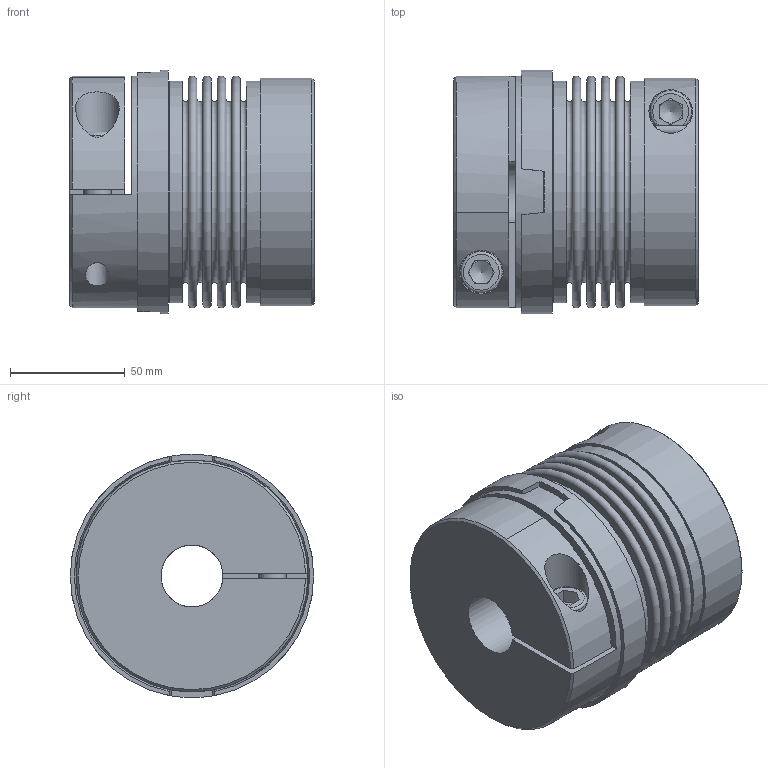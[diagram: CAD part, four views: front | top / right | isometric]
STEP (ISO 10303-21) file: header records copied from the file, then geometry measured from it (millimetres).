
FILE_DESCRIPTION( ( 'Unknown' ), '1' );
FILE_NAME( 'F:/JAKOB-STEP+IGES-Dateien/STEP-Dateien/KPP/KPP 270.stp', 'Unknown', ( 'Unknown' ), ( 'Unknown' ), 'PSStep 10.1', 'Unknown', ' ' );
FILE_SCHEMA( ( 'AUTOMOTIVE_DESIGN { 1 0 10303 214 1 1 1 1 }' ) );
Length unit declared in the file: millimetre
Products named in the file (1): KT102205
Bounding box: 106.5 x 106 x 106 mm (x, y, z)
Volume: 540179.1 mm3; surface area: 153996.3 mm2
Topology: 1 solids, 1 shells, 136 faces, 313 edges, 203 vertices
Faces by surface type: plane 87, cylinder 23, torus 20, cone 6
Full cylindrical faces by diameter (mm): 10.2 x2, 12 x2, 12.5 x2, 18 x2, 19 x2, 27 x1, 55 x1, 95.4 x1, 96.6 x2, 101 x1, 106 x1
Entity records: 5024 total; most frequent: CARTESIAN_POINT 999, DIRECTION 654, ORIENTED_EDGE 506, AXIS2_PLACEMENT_3D 270, EDGE_CURVE 253, EDGE_LOOP 208, VERTEX_POINT 185, FACE_OUTER_BOUND 172
